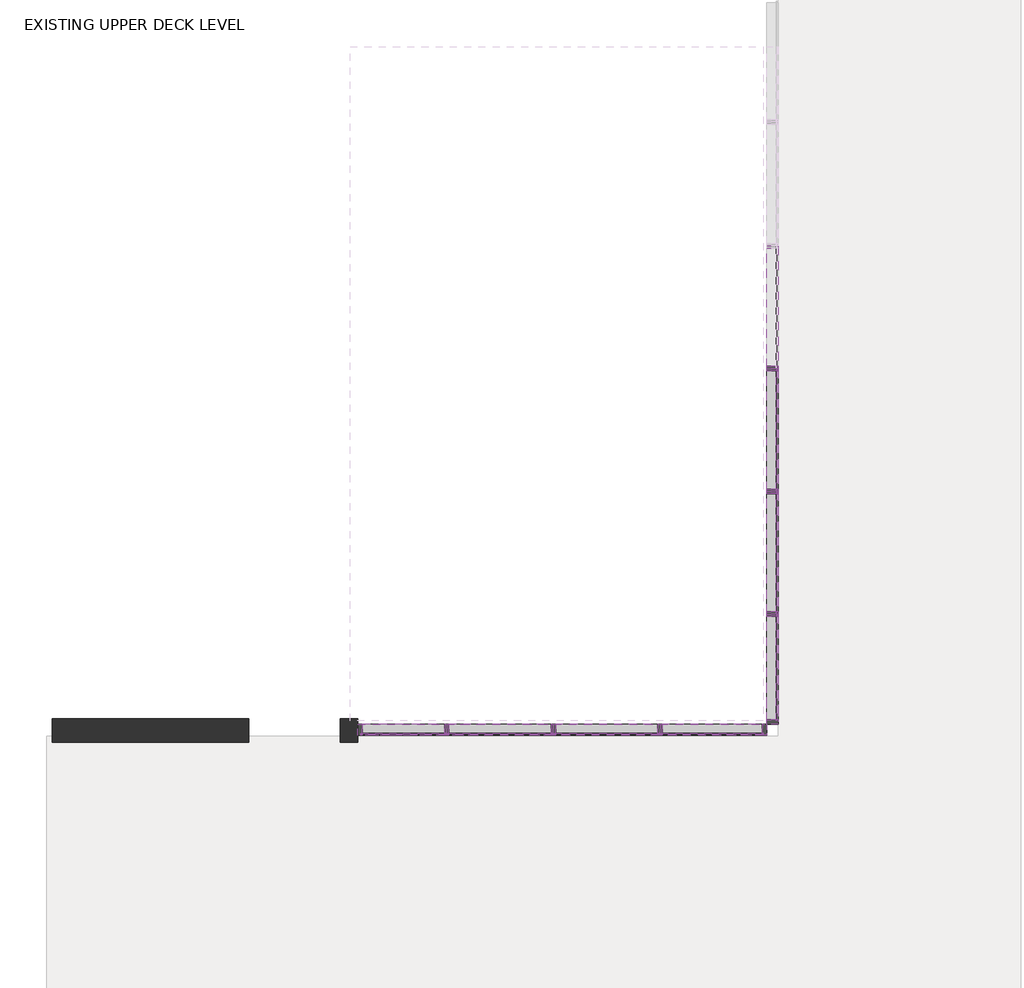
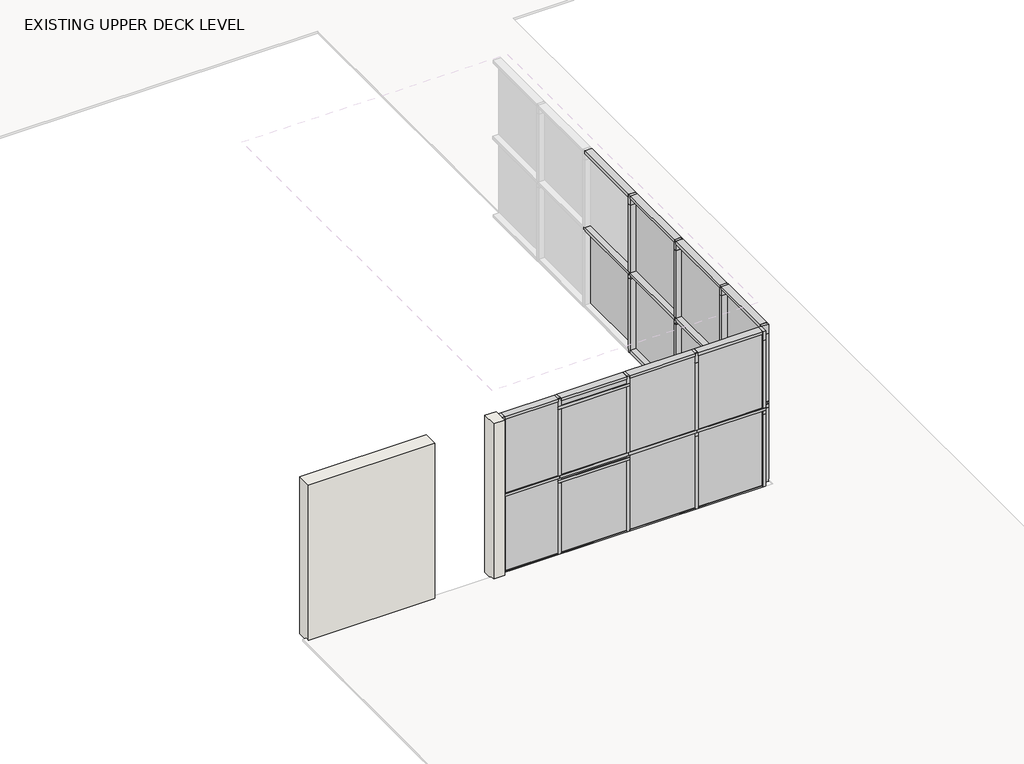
# One storey, part 1 of 3: 61 members, 17 plates, 2 walls.
"""IFC4 building model written with IfcOpenShell, lengths in millimetres."""

from ifc_helpers import new_model, si_unit, frame, origin, place, context, project, spatial, polyline, outline, extrude, transform, mapped, element, save
from components import rectangular_mullion_87c65740, rectangular_mullion_3bbbedf9, rectangular_mullion_b4cfd369, rectangular_mullion_5c729091, rectangular_mullion_7315190d, rectangular_mullion_10d2db1b, rectangular_mullion_3d4ac5a3, rectangular_mullion_f62ba54a, rectangular_mullion_d111657e, rectangular_mullion_fd3b6dd5, rectangular_mullion_40eadc30, rectangular_mullion_0e282d8c, rectangular_mullion_39e7f09f, rectangular_mullion_3aae72b7, rectangular_mullion_4c7a72c7, rectangular_mullion_b3d4cb6b, rectangular_mullion_1fe92667, rectangular_mullion_973b460d, rectangular_mullion_55bcc982, rectangular_mullion_b831e8bf, rectangular_mullion_e9066878, rectangular_mullion_478801f2, rectangular_mullion_1c6565c6, rectangular_mullion_a1e8f6e1, rectangular_mullion_329eebb0, rectangular_mullion_10ea58ea, rectangular_mullion_4aa090f8, rectangular_mullion_731fc383, rectangular_mullion_7dc9a697, rectangular_mullion_669ae467, rectangular_mullion_b15996d5, plate_297d9759, plate_a72b84bc, plate_3ea17b85, plate_fda873d3, plate_d8a04414, plate_09c1979e, plate_30067b60, plate_68830c21, plate_dc7cb12e, plate_a2bcb05a, plate_3054a16b, plate_fc387e76, plate_87ee5b28, plate_58e7cea2

model = new_model("IFC4")

# Units and contexts
model_context = context("Model", 3, world=origin())
ifc_project = project(units=[si_unit("LENGTHUNIT", "METRE", prefix="MILLI")], contexts=[model_context])

# Site, building, storey
site = spatial("IfcSite", under=ifc_project)
building = spatial("IfcBuilding", under=site)
storey = spatial("IfcBuildingStorey", under=building, Name="EXISTING UPPER DECK LEVEL", Elevation=294830.5)

# Members
placement = place(None, origin())
rectangular_mullion_shape = rectangular_mullion_87c65740(model_context)
element("IfcMember", 1, ObjectType="Rectangular Mullion : Kawneer-TRIFAB_VG_450_BACK_SB_Jamb R", at=placement, inside=storey, context=model_context, shape_type="MappedRepresentation", body=[
    mapped(rectangular_mullion_shape, transform((26931.5406077, 207160.7921827, 294830.5), x_axis=(0.0, -1.0, 0.0), y_axis=(-1.0, 0.0, 0.0), z_axis=(0.0, 0.0, -1.0))),
])
element("IfcMember", 2, ObjectType="Rectangular Mullion : Kawneer-TRIFAB_VG_450_BACK_SB_Jamb R", at=placement, inside=storey, context=model_context, shape_type="MappedRepresentation", body=[
    mapped(rectangular_mullion_shape, transform((22729.3654546, 207063.9546827, 294830.5), x_axis=(-1.0, 0.0, 0.0), y_axis=(0.0, 1.0, 0.0), z_axis=(0.0, 0.0, -1.0))),
])
rectangular_mullion_2_shape = rectangular_mullion_3bbbedf9(model_context)
element("IfcMember", 3, ObjectType="Rectangular Mullion : Kawneer-TRIFAB_VG_450_BACK_SB_Vertical", at=placement, inside=storey, context=model_context, shape_type="MappedRepresentation", body=[
    mapped(rectangular_mullion_2_shape, transform((26931.5406077, 209497.4591288, 294830.5), x_axis=(0.0, -1.0, 0.0), y_axis=(-1.0, 0.0, 0.0), z_axis=(0.0, 0.0, -1.0))),
])
element("IfcMember", 4, ObjectType="Rectangular Mullion : Kawneer-TRIFAB_VG_450_BACK_SB_Vertical", at=placement, inside=storey, context=model_context, shape_type="MappedRepresentation", body=[
    mapped(rectangular_mullion_2_shape, transform((26931.5406077, 208265.5591288, 294830.5), x_axis=(0.0, -1.0, 0.0), y_axis=(-1.0, 0.0, 0.0), z_axis=(0.0, 0.0, -1.0))),
])
element("IfcMember", 5, ObjectType="Rectangular Mullion : Kawneer-TRIFAB_VG_450_BACK_SB_Vertical", at=placement, inside=storey, context=model_context, shape_type="MappedRepresentation", body=[
    mapped(rectangular_mullion_2_shape, transform((26931.5406077, 210729.3591288, 294830.5), x_axis=(0.0, -1.0, 0.0), y_axis=(-1.0, 0.0, 0.0), z_axis=(0.0, 0.0, -1.0))),
])
element("IfcMember", 6, ObjectType="Rectangular Mullion : Kawneer-TRIFAB_VG_450_BACK_SB_Vertical", at=placement, inside=storey, context=model_context, shape_type="MappedRepresentation", body=[
    mapped(rectangular_mullion_2_shape, transform((25763.9186944, 207063.9546827, 294830.5), x_axis=(-1.0, 0.0, 0.0), y_axis=(0.0, 1.0, 0.0), z_axis=(0.0, 0.0, -1.0))),
])
rectangular_mullion_3_shape = rectangular_mullion_b4cfd369(model_context)
element("IfcMember", 7, ObjectType="Rectangular Mullion : Kawneer-TRIFAB_VG_450_BACK_SB_Jamb L", at=placement, inside=storey, context=model_context, shape_type="MappedRepresentation", body=[
    mapped(rectangular_mullion_3_shape, transform((26834.7031077, 207063.9546827, 296049.7), x_axis=(1.0, 0.0, 0.0), y_axis=(0.0, 1.0, 0.0), z_axis=(0.0, 0.0, 1.0))),
])
rectangular_mullion_4_shape = rectangular_mullion_5c729091(model_context)
element("IfcMember", 8, ObjectType="Rectangular Mullion : Kawneer-TRIFAB_VG_450_BACK_SB_Head", at=placement, inside=storey, context=model_context, shape_type="MappedRepresentation", body=[
    mapped(rectangular_mullion_4_shape, transform((26931.5406077, 209519.6841288, 297421.3), x_axis=(0.0, 0.0, 1.0), y_axis=(-1.0, 0.0, 0.0), z_axis=(0.0, -1.0, 0.0))),
])
element("IfcMember", 9, ObjectType="Rectangular Mullion : Kawneer-TRIFAB_VG_450_BACK_SB_Head", at=placement, inside=storey, context=model_context, shape_type="MappedRepresentation", body=[
    mapped(rectangular_mullion_4_shape, transform((26931.5406077, 208287.7841288, 297421.3), x_axis=(0.0, 0.0, 1.0), y_axis=(-1.0, 0.0, 0.0), z_axis=(0.0, -1.0, 0.0))),
])
element("IfcMember", 10, ObjectType="Rectangular Mullion : Kawneer-TRIFAB_VG_450_BACK_SB_Head", at=placement, inside=storey, context=model_context, shape_type="MappedRepresentation", body=[
    mapped(rectangular_mullion_4_shape, transform((26931.5406077, 210751.5841288, 297421.3), x_axis=(0.0, 0.0, 1.0), y_axis=(-1.0, 0.0, 0.0), z_axis=(0.0, -1.0, 0.0))),
])
rectangular_mullion_5_shape = rectangular_mullion_7315190d(model_context)
element("IfcMember", 11, ObjectType="Rectangular Mullion : Kawneer-TRIFAB_VG_450_BACK_SB_Sill", at=placement, inside=storey, context=model_context, shape_type="MappedRepresentation", body=[
    mapped(rectangular_mullion_5_shape, transform((26931.5406077, 209475.2341288, 294830.5), x_axis=(0.0, 0.0, -1.0), y_axis=(-1.0, 0.0, 0.0), z_axis=(0.0, 1.0, 0.0))),
])
element("IfcMember", 12, ObjectType="Rectangular Mullion : Kawneer-TRIFAB_VG_450_BACK_SB_Sill", at=placement, inside=storey, context=model_context, shape_type="MappedRepresentation", body=[
    mapped(rectangular_mullion_5_shape, transform((26931.5406077, 210707.1341288, 294830.5), x_axis=(0.0, 0.0, -1.0), y_axis=(-1.0, 0.0, 0.0), z_axis=(0.0, 1.0, 0.0))),
])
rectangular_mullion_6_shape = rectangular_mullion_10d2db1b(model_context)
element("IfcMember", 13, ObjectType="Rectangular Mullion : Kawneer-TRIFAB_VG_450_BACK_SB_Vertical", at=placement, inside=storey, context=model_context, shape_type="MappedRepresentation", body=[
    mapped(rectangular_mullion_6_shape, transform((26931.5406077, 209497.4591288, 297268.9), x_axis=(0.0, -1.0, 0.0), y_axis=(-1.0, 0.0, 0.0), z_axis=(0.0, 0.0, -1.0))),
])
element("IfcMember", 14, ObjectType="Rectangular Mullion : Kawneer-TRIFAB_VG_450_BACK_SB_Vertical", at=placement, inside=storey, context=model_context, shape_type="MappedRepresentation", body=[
    mapped(rectangular_mullion_6_shape, transform((26931.5406077, 208265.5591288, 297268.9), x_axis=(0.0, -1.0, 0.0), y_axis=(-1.0, 0.0, 0.0), z_axis=(0.0, 0.0, -1.0))),
])
element("IfcMember", 15, ObjectType="Rectangular Mullion : Kawneer-TRIFAB_VG_450_BACK_SB_Vertical", at=placement, inside=storey, context=model_context, shape_type="MappedRepresentation", body=[
    mapped(rectangular_mullion_6_shape, transform((26931.5406077, 210729.3591288, 297268.9), x_axis=(0.0, -1.0, 0.0), y_axis=(-1.0, 0.0, 0.0), z_axis=(0.0, 0.0, -1.0))),
])
element("IfcMember", 16, ObjectType="Rectangular Mullion : Kawneer-TRIFAB_VG_450_BACK_SB_Vertical", at=placement, inside=storey, context=model_context, shape_type="MappedRepresentation", body=[
    mapped(rectangular_mullion_6_shape, transform((25763.9186944, 207063.9546827, 297268.9), x_axis=(-1.0, 0.0, 0.0), y_axis=(0.0, 1.0, 0.0), z_axis=(0.0, 0.0, -1.0))),
])
rectangular_mullion_7_shape = rectangular_mullion_3d4ac5a3(model_context)
element("IfcMember", 17, ObjectType="Rectangular Mullion : Kawneer-TRIFAB_VG_450_BACK_SB_Jamb L", at=placement, inside=storey, context=model_context, shape_type="MappedRepresentation", body=[
    mapped(rectangular_mullion_7_shape, transform((26834.7031077, 207063.9546827, 297421.3), x_axis=(1.0, 0.0, 0.0), y_axis=(0.0, 1.0, 0.0), z_axis=(0.0, 0.0, 1.0))),
])
rectangular_mullion_8_shape = rectangular_mullion_f62ba54a(model_context)
element("IfcMember", 18, ObjectType="Rectangular Mullion : Kawneer-TRIFAB_VG_450_BACK_SB_Jamb R", at=placement, inside=storey, context=model_context, shape_type="MappedRepresentation", body=[
    mapped(rectangular_mullion_8_shape, transform((26931.5406077, 207160.7921827, 297268.9), x_axis=(0.0, -1.0, 0.0), y_axis=(-1.0, 0.0, 0.0), z_axis=(0.0, 0.0, -1.0))),
])
element("IfcMember", 19, ObjectType="Rectangular Mullion : Kawneer-TRIFAB_VG_450_BACK_SB_Jamb R", at=placement, inside=storey, context=model_context, shape_type="MappedRepresentation", body=[
    mapped(rectangular_mullion_8_shape, transform((22729.3654546, 207063.9546827, 297268.9), x_axis=(-1.0, 0.0, 0.0), y_axis=(0.0, 1.0, 0.0), z_axis=(0.0, 0.0, -1.0))),
])
rectangular_mullion_9_shape = rectangular_mullion_d111657e(model_context)
element("IfcMember", 20, ObjectType="Rectangular Mullion : Kawneer-TRIFAB_VG_450_BACK_SB_Vertical", at=placement, inside=storey, context=model_context, shape_type="MappedRepresentation", body=[
    mapped(rectangular_mullion_9_shape, transform((24693.1342812, 207063.9546827, 294830.5), x_axis=(-1.0, 0.0, 0.0), y_axis=(0.0, 1.0, 0.0), z_axis=(0.0, 0.0, -1.0))),
])
element("IfcMember", 21, ObjectType="Rectangular Mullion : Kawneer-TRIFAB_VG_450_BACK_SB_Vertical", at=placement, inside=storey, context=model_context, shape_type="MappedRepresentation", body=[
    mapped(rectangular_mullion_9_shape, transform((23622.3498679, 207063.9546827, 294830.5), x_axis=(-1.0, 0.0, 0.0), y_axis=(0.0, 1.0, 0.0), z_axis=(0.0, 0.0, -1.0))),
])
rectangular_mullion_10_shape = rectangular_mullion_fd3b6dd5(model_context)
element("IfcMember", 22, ObjectType="Rectangular Mullion : Kawneer-TRIFAB_VG_450_BACK_SB_Vertical", at=placement, inside=storey, context=model_context, shape_type="MappedRepresentation", body=[
    mapped(rectangular_mullion_10_shape, transform((26931.5406077, 209497.4591288, 296049.7), x_axis=(0.0, -1.0, 0.0), y_axis=(-1.0, 0.0, 0.0), z_axis=(0.0, 0.0, -1.0))),
])
element("IfcMember", 23, ObjectType="Rectangular Mullion : Kawneer-TRIFAB_VG_450_BACK_SB_Vertical", at=placement, inside=storey, context=model_context, shape_type="MappedRepresentation", body=[
    mapped(rectangular_mullion_10_shape, transform((26931.5406077, 208265.5591288, 296049.7), x_axis=(0.0, -1.0, 0.0), y_axis=(-1.0, 0.0, 0.0), z_axis=(0.0, 0.0, -1.0))),
])
element("IfcMember", 24, ObjectType="Rectangular Mullion : Kawneer-TRIFAB_VG_450_BACK_SB_Vertical", at=placement, inside=storey, context=model_context, shape_type="MappedRepresentation", body=[
    mapped(rectangular_mullion_10_shape, transform((26931.5406077, 210729.3591288, 296049.7), x_axis=(0.0, -1.0, 0.0), y_axis=(-1.0, 0.0, 0.0), z_axis=(0.0, 0.0, -1.0))),
])
element("IfcMember", 25, ObjectType="Rectangular Mullion : Kawneer-TRIFAB_VG_450_BACK_SB_Vertical", at=placement, inside=storey, context=model_context, shape_type="MappedRepresentation", body=[
    mapped(rectangular_mullion_10_shape, transform((25763.9186944, 207063.9546827, 296049.7), x_axis=(-1.0, 0.0, 0.0), y_axis=(0.0, 1.0, 0.0), z_axis=(0.0, 0.0, -1.0))),
])
rectangular_mullion_11_shape = rectangular_mullion_40eadc30(model_context)
element("IfcMember", 26, ObjectType="Rectangular Mullion : Kawneer-TRIFAB_VG_450_BACK_SB_Vertical", at=placement, inside=storey, context=model_context, shape_type="MappedRepresentation", body=[
    mapped(rectangular_mullion_11_shape, transform((26931.5406077, 209497.4591288, 296152.4594027), x_axis=(0.0, -1.0, 0.0), y_axis=(-1.0, 0.0, 0.0), z_axis=(0.0, 0.0, -1.0))),
])
element("IfcMember", 27, ObjectType="Rectangular Mullion : Kawneer-TRIFAB_VG_450_BACK_SB_Vertical", at=placement, inside=storey, context=model_context, shape_type="MappedRepresentation", body=[
    mapped(rectangular_mullion_11_shape, transform((26931.5406077, 208265.5591288, 296152.4594027), x_axis=(0.0, -1.0, 0.0), y_axis=(-1.0, 0.0, 0.0), z_axis=(0.0, 0.0, -1.0))),
])
element("IfcMember", 28, ObjectType="Rectangular Mullion : Kawneer-TRIFAB_VG_450_BACK_SB_Vertical", at=placement, inside=storey, context=model_context, shape_type="MappedRepresentation", body=[
    mapped(rectangular_mullion_11_shape, transform((26931.5406077, 210729.3591288, 296152.4594027), x_axis=(0.0, -1.0, 0.0), y_axis=(-1.0, 0.0, 0.0), z_axis=(0.0, 0.0, -1.0))),
])
element("IfcMember", 29, ObjectType="Rectangular Mullion : Kawneer-TRIFAB_VG_450_BACK_SB_Vertical", at=placement, inside=storey, context=model_context, shape_type="MappedRepresentation", body=[
    mapped(rectangular_mullion_11_shape, transform((25763.9186944, 207063.9546827, 296152.4594027), x_axis=(-1.0, 0.0, 0.0), y_axis=(0.0, 1.0, 0.0), z_axis=(0.0, 0.0, -1.0))),
])
rectangular_mullion_12_shape = rectangular_mullion_0e282d8c(model_context)
element("IfcMember", 30, ObjectType="Rectangular Mullion : Kawneer-TRIFAB_VG_450_BACK_SB_Horizontal", at=placement, inside=storey, context=model_context, shape_type="MappedRepresentation", body=[
    mapped(rectangular_mullion_12_shape, transform((26931.5406077, 210729.3591288, 296125.9), x_axis=(0.0, 0.0, 1.0), y_axis=(-1.0, 0.0, 0.0), z_axis=(0.0, -1.0, 0.0))),
])
element("IfcMember", 31, ObjectType="Rectangular Mullion : Kawneer-TRIFAB_VG_450_BACK_SB_Horizontal", at=placement, inside=storey, context=model_context, shape_type="MappedRepresentation", body=[
    mapped(rectangular_mullion_12_shape, transform((26931.5406077, 209497.4591288, 296125.9), x_axis=(0.0, 0.0, 1.0), y_axis=(-1.0, 0.0, 0.0), z_axis=(0.0, -1.0, 0.0))),
])
element("IfcMember", 32, ObjectType="Rectangular Mullion : Kawneer-TRIFAB_VG_450_BACK_SB_Horizontal", at=placement, inside=storey, context=model_context, shape_type="MappedRepresentation", body=[
    mapped(rectangular_mullion_12_shape, transform((26931.5406077, 208265.5591288, 296125.9), x_axis=(0.0, 0.0, 1.0), y_axis=(-1.0, 0.0, 0.0), z_axis=(0.0, -1.0, 0.0))),
])
rectangular_mullion_13_shape = rectangular_mullion_39e7f09f(model_context)
element("IfcMember", 33, ObjectType="Rectangular Mullion : Kawneer-TRIFAB_VG_450_BACK_SB_Jamb R", at=placement, inside=storey, context=model_context, shape_type="MappedRepresentation", body=[
    mapped(rectangular_mullion_13_shape, transform((26931.5406077, 207160.7921827, 296049.7), x_axis=(0.0, -1.0, 0.0), y_axis=(-1.0, 0.0, 0.0), z_axis=(0.0, 0.0, -1.0))),
])
element("IfcMember", 34, ObjectType="Rectangular Mullion : Kawneer-TRIFAB_VG_450_BACK_SB_Jamb R", at=placement, inside=storey, context=model_context, shape_type="MappedRepresentation", body=[
    mapped(rectangular_mullion_13_shape, transform((22729.3654546, 207063.9546827, 296049.7), x_axis=(-1.0, 0.0, 0.0), y_axis=(0.0, 1.0, 0.0), z_axis=(0.0, 0.0, -1.0))),
])
rectangular_mullion_14_shape = rectangular_mullion_3aae72b7(model_context)
element("IfcMember", 35, ObjectType="Rectangular Mullion : Kawneer-TRIFAB_VG_450_BACK_SB_Jamb L", at=placement, inside=storey, context=model_context, shape_type="MappedRepresentation", body=[
    mapped(rectangular_mullion_14_shape, transform((26834.7031077, 207063.9546827, 297268.9), x_axis=(1.0, 0.0, 0.0), y_axis=(0.0, 1.0, 0.0), z_axis=(0.0, 0.0, 1.0))),
])
rectangular_mullion_15_shape = rectangular_mullion_4c7a72c7(model_context)
element("IfcMember", 36, ObjectType="Rectangular Mullion : Kawneer-TRIFAB_VG_450_BACK_SB_Jamb R", at=placement, inside=storey, context=model_context, shape_type="MappedRepresentation", body=[
    mapped(rectangular_mullion_15_shape, transform((26931.5406077, 207160.7921827, 296152.4594027), x_axis=(0.0, -1.0, 0.0), y_axis=(-1.0, 0.0, 0.0), z_axis=(0.0, 0.0, -1.0))),
])
element("IfcMember", 37, ObjectType="Rectangular Mullion : Kawneer-TRIFAB_VG_450_BACK_SB_Jamb R", at=placement, inside=storey, context=model_context, shape_type="MappedRepresentation", body=[
    mapped(rectangular_mullion_15_shape, transform((22729.3654546, 207063.9546827, 296152.4594027), x_axis=(-1.0, 0.0, 0.0), y_axis=(0.0, 1.0, 0.0), z_axis=(0.0, 0.0, -1.0))),
])
rectangular_mullion_16_shape = rectangular_mullion_b3d4cb6b(model_context)
element("IfcMember", 38, ObjectType="Rectangular Mullion : Kawneer-TRIFAB_VG_450_BACK_SB_Jamb L", at=placement, inside=storey, context=model_context, shape_type="MappedRepresentation", body=[
    mapped(rectangular_mullion_16_shape, transform((26834.7031077, 207063.9546827, 296108.0094027), x_axis=(1.0, 0.0, 0.0), y_axis=(0.0, 1.0, 0.0), z_axis=(0.0, 0.0, 1.0))),
])
rectangular_mullion_17_shape = rectangular_mullion_1fe92667(model_context)
element("IfcMember", 39, ObjectType="Rectangular Mullion : Kawneer-TRIFAB_VG_450_BACK_SB_Head", at=placement, inside=storey, context=model_context, shape_type="MappedRepresentation", body=[
    mapped(rectangular_mullion_17_shape, transform((26931.5406077, 207205.2421827, 297421.3), x_axis=(0.0, 0.0, 1.0), y_axis=(-1.0, 0.0, 0.0), z_axis=(0.0, -1.0, 0.0))),
])
rectangular_mullion_18_shape = rectangular_mullion_973b460d(model_context)
element("IfcMember", 40, ObjectType="Rectangular Mullion : Kawneer-TRIFAB_VG_450_BACK_SB_Sill", at=placement, inside=storey, context=model_context, shape_type="MappedRepresentation", body=[
    mapped(rectangular_mullion_18_shape, transform((26931.5406077, 208243.3341288, 294830.5), x_axis=(0.0, 0.0, -1.0), y_axis=(-1.0, 0.0, 0.0), z_axis=(0.0, 1.0, 0.0))),
])
rectangular_mullion_19_shape = rectangular_mullion_55bcc982(model_context)
element("IfcMember", 41, ObjectType="Rectangular Mullion : Kawneer-TRIFAB_VG_450_BACK_SB_Horizontal", at=placement, inside=storey, context=model_context, shape_type="MappedRepresentation", body=[
    mapped(rectangular_mullion_19_shape, transform((26931.5406077, 207160.7921827, 296125.9), x_axis=(0.0, 0.0, 1.0), y_axis=(-1.0, 0.0, 0.0), z_axis=(0.0, -1.0, 0.0))),
])
rectangular_mullion_20_shape = rectangular_mullion_b831e8bf(model_context)
element("IfcMember", 42, ObjectType="Rectangular Mullion : Kawneer-TRIFAB_VG_450_BACK_SB_Head", at=placement, inside=storey, context=model_context, shape_type="MappedRepresentation", body=[
    mapped(rectangular_mullion_20_shape, transform((22773.8154546, 207063.9546827, 297421.3), x_axis=(0.0, 0.0, 1.0), y_axis=(0.0, 1.0, 0.0), z_axis=(-1.0, 0.0, 0.0))),
])
rectangular_mullion_21_shape = rectangular_mullion_e9066878(model_context)
element("IfcMember", 43, ObjectType="Rectangular Mullion : Kawneer-TRIFAB_VG_450_BACK_SB_Sill", at=placement, inside=storey, context=model_context, shape_type="MappedRepresentation", body=[
    mapped(rectangular_mullion_21_shape, transform((23600.1248679, 207063.9546827, 294830.5), x_axis=(0.0, 0.0, -1.0), y_axis=(0.0, 1.0, 0.0), z_axis=(1.0, 0.0, 0.0))),
])
rectangular_mullion_22_shape = rectangular_mullion_478801f2(model_context)
element("IfcMember", 44, ObjectType="Rectangular Mullion : Kawneer-TRIFAB_VG_450_BACK_SB_Horizontal", at=placement, inside=storey, context=model_context, shape_type="MappedRepresentation", body=[
    mapped(rectangular_mullion_22_shape, transform((22729.3654546, 207063.9546827, 296125.9), x_axis=(0.0, 0.0, 1.0), y_axis=(0.0, 1.0, 0.0), z_axis=(-1.0, 0.0, 0.0))),
])
rectangular_mullion_23_shape = rectangular_mullion_1c6565c6(model_context)
element("IfcMember", 45, ObjectType="Rectangular Mullion : Kawneer-TRIFAB_VG_450_BACK_SB_Vertical", at=placement, inside=storey, context=model_context, shape_type="MappedRepresentation", body=[
    mapped(rectangular_mullion_23_shape, transform((24693.1342812, 207063.9546827, 296076.2594027), x_axis=(-1.0, 0.0, 0.0), y_axis=(0.0, 1.0, 0.0), z_axis=(0.0, 0.0, -1.0))),
])
element("IfcMember", 46, ObjectType="Rectangular Mullion : Kawneer-TRIFAB_VG_450_BACK_SB_Vertical", at=placement, inside=storey, context=model_context, shape_type="MappedRepresentation", body=[
    mapped(rectangular_mullion_23_shape, transform((23622.3498679, 207063.9546827, 296076.2594027), x_axis=(-1.0, 0.0, 0.0), y_axis=(0.0, 1.0, 0.0), z_axis=(0.0, 0.0, -1.0))),
])
rectangular_mullion_24_shape = rectangular_mullion_a1e8f6e1(model_context)
element("IfcMember", 47, ObjectType="Rectangular Mullion : Kawneer-TRIFAB_VG_450_BACK_SB_Vertical", at=placement, inside=storey, context=model_context, shape_type="MappedRepresentation", body=[
    mapped(rectangular_mullion_24_shape, transform((24693.1342812, 207063.9546827, 297295.4594027), x_axis=(-1.0, 0.0, 0.0), y_axis=(0.0, 1.0, 0.0), z_axis=(0.0, 0.0, -1.0))),
])
element("IfcMember", 48, ObjectType="Rectangular Mullion : Kawneer-TRIFAB_VG_450_BACK_SB_Vertical", at=placement, inside=storey, context=model_context, shape_type="MappedRepresentation", body=[
    mapped(rectangular_mullion_24_shape, transform((23622.3498679, 207063.9546827, 297295.4594027), x_axis=(-1.0, 0.0, 0.0), y_axis=(0.0, 1.0, 0.0), z_axis=(0.0, 0.0, -1.0))),
])
rectangular_mullion_25_shape = rectangular_mullion_329eebb0(model_context)
element("IfcMember", 49, ObjectType="Rectangular Mullion : Kawneer-TRIFAB_VG_450_BACK_SB_Vertical", at=placement, inside=storey, context=model_context, shape_type="MappedRepresentation", body=[
    mapped(rectangular_mullion_25_shape, transform((24693.1342812, 207063.9546827, 296152.4594027), x_axis=(-1.0, 0.0, 0.0), y_axis=(0.0, 1.0, 0.0), z_axis=(0.0, 0.0, -1.0))),
])
element("IfcMember", 50, ObjectType="Rectangular Mullion : Kawneer-TRIFAB_VG_450_BACK_SB_Vertical", at=placement, inside=storey, context=model_context, shape_type="MappedRepresentation", body=[
    mapped(rectangular_mullion_25_shape, transform((23622.3498679, 207063.9546827, 296152.4594027), x_axis=(-1.0, 0.0, 0.0), y_axis=(0.0, 1.0, 0.0), z_axis=(0.0, 0.0, -1.0))),
])
rectangular_mullion_26_shape = rectangular_mullion_10ea58ea(model_context)
element("IfcMember", 51, ObjectType="Rectangular Mullion : Kawneer-TRIFAB_VG_450_BACK_SB_Sill", at=placement, inside=storey, context=model_context, shape_type="MappedRepresentation", body=[
    mapped(rectangular_mullion_26_shape, transform((24670.9092812, 207063.9546827, 294830.5), x_axis=(0.0, 0.0, -1.0), y_axis=(0.0, 1.0, 0.0), z_axis=(1.0, 0.0, 0.0))),
])
element("IfcMember", 52, ObjectType="Rectangular Mullion : Kawneer-TRIFAB_VG_450_BACK_SB_Sill", at=placement, inside=storey, context=model_context, shape_type="MappedRepresentation", body=[
    mapped(rectangular_mullion_26_shape, transform((25741.6936944, 207063.9546827, 294830.5), x_axis=(0.0, 0.0, -1.0), y_axis=(0.0, 1.0, 0.0), z_axis=(1.0, 0.0, 0.0))),
])
rectangular_mullion_27_shape = rectangular_mullion_4aa090f8(model_context)
element("IfcMember", 53, ObjectType="Rectangular Mullion : Kawneer-TRIFAB_VG_450_BACK_SB_Head", at=placement, inside=storey, context=model_context, shape_type="MappedRepresentation", body=[
    mapped(rectangular_mullion_27_shape, transform((24715.3592812, 207063.9546827, 297421.3), x_axis=(0.0, 0.0, 1.0), y_axis=(0.0, 1.0, 0.0), z_axis=(-1.0, 0.0, 0.0))),
])
element("IfcMember", 54, ObjectType="Rectangular Mullion : Kawneer-TRIFAB_VG_450_BACK_SB_Head", at=placement, inside=storey, context=model_context, shape_type="MappedRepresentation", body=[
    mapped(rectangular_mullion_27_shape, transform((23644.5748679, 207063.9546827, 297421.3), x_axis=(0.0, 0.0, 1.0), y_axis=(0.0, 1.0, 0.0), z_axis=(-1.0, 0.0, 0.0))),
])
rectangular_mullion_28_shape = rectangular_mullion_731fc383(model_context)
element("IfcMember", 55, ObjectType="Rectangular Mullion : Kawneer-TRIFAB_VG_450_BACK_SB_Horizontal", at=placement, inside=storey, context=model_context, shape_type="MappedRepresentation", body=[
    mapped(rectangular_mullion_28_shape, transform((24693.1342812, 207063.9546827, 296125.9), x_axis=(0.0, 0.0, 1.0), y_axis=(0.0, 1.0, 0.0), z_axis=(-1.0, 0.0, 0.0))),
])
element("IfcMember", 56, ObjectType="Rectangular Mullion : Kawneer-TRIFAB_VG_450_BACK_SB_Horizontal", at=placement, inside=storey, context=model_context, shape_type="MappedRepresentation", body=[
    mapped(rectangular_mullion_28_shape, transform((23622.3498679, 207063.9546827, 296125.9), x_axis=(0.0, 0.0, 1.0), y_axis=(0.0, 1.0, 0.0), z_axis=(-1.0, 0.0, 0.0))),
])
rectangular_mullion_29_shape = rectangular_mullion_7dc9a697(model_context)
element("IfcMember", 57, ObjectType="Rectangular Mullion : Kawneer-TRIFAB_VG_450_BACK_SB_Horizontal", at=placement, inside=storey, context=model_context, shape_type="MappedRepresentation", body=[
    mapped(rectangular_mullion_29_shape, transform((23600.1248679, 207063.9546827, 296049.7), x_axis=(0.0, 0.0, 1.0), y_axis=(0.0, 1.0, 0.0), z_axis=(-1.0, 0.0, 0.0))),
])
element("IfcMember", 58, ObjectType="Rectangular Mullion : Kawneer-TRIFAB_VG_450_BACK_SB_Horizontal", at=placement, inside=storey, context=model_context, shape_type="MappedRepresentation", body=[
    mapped(rectangular_mullion_29_shape, transform((23600.1248679, 207063.9546827, 297268.9), x_axis=(0.0, 0.0, 1.0), y_axis=(0.0, 1.0, 0.0), z_axis=(-1.0, 0.0, 0.0))),
])
rectangular_mullion_30_shape = rectangular_mullion_669ae467(model_context)
element("IfcMember", 59, ObjectType="Rectangular Mullion : Kawneer-TRIFAB_VG_450_BACK_SB_Sill", at=placement, inside=storey, context=model_context, shape_type="MappedRepresentation", body=[
    mapped(rectangular_mullion_30_shape, transform((26790.2531077, 207063.9546827, 294830.5), x_axis=(0.0, 0.0, -1.0), y_axis=(0.0, 1.0, 0.0), z_axis=(1.0, 0.0, 0.0))),
])
rectangular_mullion_31_shape = rectangular_mullion_b15996d5(model_context)
element("IfcMember", 60, ObjectType="Rectangular Mullion : Kawneer-TRIFAB_VG_450_BACK_SB_Head", at=placement, inside=storey, context=model_context, shape_type="MappedRepresentation", body=[
    mapped(rectangular_mullion_31_shape, transform((25786.1436944, 207063.9546827, 297421.3), x_axis=(0.0, 0.0, 1.0), y_axis=(0.0, 1.0, 0.0), z_axis=(-1.0, 0.0, 0.0))),
])
element("IfcMember", 61, ObjectType="Rectangular Mullion : Kawneer-TRIFAB_VG_450_BACK_SB_Horizontal", at=placement, inside=storey, context=model_context, shape_type="MappedRepresentation", body=[
    mapped(rectangular_mullion_28_shape, transform((25763.9186944, 207063.9546827, 296125.9), x_axis=(0.0, 0.0, 1.0), y_axis=(0.0, 1.0, 0.0), z_axis=(-1.0, 0.0, 0.0))),
])

# Plates
plate_shape = plate_297d9759(model_context)
element("IfcPlate", 62, ObjectType="System Panel : 1/4\" Glass", at=placement, inside=storey, context=model_context, shape_type="MappedRepresentation", body=[
    mapped(plate_shape, transform((26931.5406077, 211345.310014, 294865.425), x_axis=(0.0, -1.0, 0.0), y_axis=(1.0, 0.0, 0.0), z_axis=(0.0, 0.0, 1.0))),
])
element("IfcPlate", 63, ObjectType="System Panel : 1/4\" Glass", at=placement, inside=storey, context=model_context, shape_type="MappedRepresentation", body=[
    mapped(plate_shape, transform((26931.5406077, 208881.510014, 294865.425), x_axis=(0.0, -1.0, 0.0), y_axis=(1.0, 0.0, 0.0), z_axis=(0.0, 0.0, 1.0))),
])
element("IfcPlate", 64, ObjectType="System Panel : 1/4\" Glass", at=placement, inside=storey, context=model_context, shape_type="MappedRepresentation", body=[
    mapped(plate_shape, transform((26931.5406077, 210113.410014, 294865.425), x_axis=(0.0, -1.0, 0.0), y_axis=(1.0, 0.0, 0.0), z_axis=(0.0, 0.0, 1.0))),
])
plate_2_shape = plate_a72b84bc(model_context)
element("IfcPlate", 65, ObjectType="System Panel : 1/4\" Glass", at=placement, inside=storey, context=model_context, shape_type="MappedRepresentation", body=[
    mapped(plate_2_shape, transform((26931.5406077, 210113.410014, 296152.4594027), x_axis=(0.0, -1.0, 0.0), y_axis=(1.0, 0.0, 0.0), z_axis=(0.0, 0.0, 1.0))),
])
element("IfcPlate", 66, ObjectType="System Panel : 1/4\" Glass", at=placement, inside=storey, context=model_context, shape_type="MappedRepresentation", body=[
    mapped(plate_2_shape, transform((26931.5406077, 208881.510014, 296152.4594027), x_axis=(0.0, -1.0, 0.0), y_axis=(1.0, 0.0, 0.0), z_axis=(0.0, 0.0, 1.0))),
])
plate_3_shape = plate_3ea17b85(model_context)
element("IfcPlate", 67, ObjectType="System Panel : 1/4\" Glass", at=placement, inside=storey, context=model_context, shape_type="MappedRepresentation", body=[
    mapped(plate_3_shape, transform((26931.5406077, 207724.2881557, 294865.425), x_axis=(0.0, -1.0, 0.0), y_axis=(1.0, 0.0, 0.0), z_axis=(0.0, 0.0, 1.0))),
])
plate_4_shape = plate_fda873d3(model_context)
element("IfcPlate", 68, ObjectType="System Panel : 1/4\" Glass", at=placement, inside=storey, context=model_context, shape_type="MappedRepresentation", body=[
    mapped(plate_4_shape, transform((26931.5406077, 207724.2881557, 296152.4594027), x_axis=(0.0, -1.0, 0.0), y_axis=(1.0, 0.0, 0.0), z_axis=(0.0, 0.0, 1.0))),
])
plate_5_shape = plate_d8a04414(model_context)
element("IfcPlate", 69, ObjectType="System Panel : 1/4\" Glass", at=placement, inside=storey, context=model_context, shape_type="MappedRepresentation", body=[
    mapped(plate_5_shape, transform((23186.9701613, 207063.9546827, 294865.425), x_axis=(-1.0, 0.0, 0.0), y_axis=(0.0, -1.0, 0.0), z_axis=(0.0, 0.0, 1.0))),
])
plate_6_shape = plate_09c1979e(model_context)
element("IfcPlate", 70, ObjectType="System Panel : 1/4\" Glass", at=placement, inside=storey, context=model_context, shape_type="MappedRepresentation", body=[
    mapped(plate_6_shape, transform((23186.9701613, 207063.9546827, 296152.4594027), x_axis=(-1.0, 0.0, 0.0), y_axis=(0.0, -1.0, 0.0), z_axis=(0.0, 0.0, 1.0))),
])
plate_7_shape = plate_30067b60(model_context)
element("IfcPlate", 71, ObjectType="System Panel : 1/4\" Glass", at=placement, inside=storey, context=model_context, shape_type="MappedRepresentation", body=[
    mapped(plate_7_shape, transform((24157.7429597, 207063.9546827, 294865.425), x_axis=(-1.0, 0.0, 0.0), y_axis=(0.0, -1.0, 0.0), z_axis=(0.0, 0.0, 1.0))),
])
plate_8_shape = plate_68830c21(model_context)
element("IfcPlate", 72, ObjectType="System Panel : 1/4\" Glass", at=placement, inside=storey, context=model_context, shape_type="MappedRepresentation", body=[
    mapped(plate_8_shape, transform((24157.7429597, 207063.9546827, 296076.2594027), x_axis=(-1.0, 0.0, 0.0), y_axis=(0.0, -1.0, 0.0), z_axis=(0.0, 0.0, 1.0))),
])
plate_9_shape = plate_dc7cb12e(model_context)
element("IfcPlate", 73, ObjectType="System Panel : 1/4\" Glass", at=placement, inside=storey, context=model_context, shape_type="MappedRepresentation", body=[
    mapped(plate_9_shape, transform((24157.7429597, 207063.9546827, 297295.4594027), x_axis=(-1.0, 0.0, 0.0), y_axis=(0.0, -1.0, 0.0), z_axis=(0.0, 0.0, 1.0))),
])
plate_10_shape = plate_a2bcb05a(model_context)
element("IfcPlate", 74, ObjectType="System Panel : 1/4\" Glass", at=placement, inside=storey, context=model_context, shape_type="MappedRepresentation", body=[
    mapped(plate_10_shape, transform((24157.7429597, 207063.9546827, 296152.4594027), x_axis=(-1.0, 0.0, 0.0), y_axis=(0.0, -1.0, 0.0), z_axis=(0.0, 0.0, 1.0))),
])
plate_11_shape = plate_3054a16b(model_context)
element("IfcPlate", 75, ObjectType="System Panel : 1/4\" Glass", at=placement, inside=storey, context=model_context, shape_type="MappedRepresentation", body=[
    mapped(plate_11_shape, transform((26281.8484011, 207063.9546827, 294865.425), x_axis=(-1.0, 0.0, 0.0), y_axis=(0.0, -1.0, 0.0), z_axis=(0.0, 0.0, 1.0))),
])
plate_12_shape = plate_fc387e76(model_context)
element("IfcPlate", 76, ObjectType="System Panel : 1/4\" Glass", at=placement, inside=storey, context=model_context, shape_type="MappedRepresentation", body=[
    mapped(plate_12_shape, transform((25228.527373, 207063.9546827, 294865.425), x_axis=(-1.0, 0.0, 0.0), y_axis=(0.0, -1.0, 0.0), z_axis=(0.0, 0.0, 1.0))),
])
plate_13_shape = plate_87ee5b28(model_context)
element("IfcPlate", 77, ObjectType="System Panel : 1/4\" Glass", at=placement, inside=storey, context=model_context, shape_type="MappedRepresentation", body=[
    mapped(plate_13_shape, transform((26281.8484011, 207063.9546827, 296152.4594027), x_axis=(-1.0, 0.0, 0.0), y_axis=(0.0, -1.0, 0.0), z_axis=(0.0, 0.0, 1.0))),
])
plate_14_shape = plate_58e7cea2(model_context)
element("IfcPlate", 78, ObjectType="System Panel : 1/4\" Glass", at=placement, inside=storey, context=model_context, shape_type="MappedRepresentation", body=[
    mapped(plate_14_shape, transform((25228.527373, 207063.9546827, 296152.4594027), x_axis=(-1.0, 0.0, 0.0), y_axis=(0.0, -1.0, 0.0), z_axis=(0.0, 0.0, 1.0))),
])

# Walls
element("IfcWall", 79, ObjectType="(MP-1) Metal Panel Cladding 2", at=placement, inside=storey, context=model_context, shape_type="SweptSolid", body=[
    extrude(outline(polyline([(21637.1654546, 206979.93681), (19662.3154546, 206979.93681), (19662.3154546, 207214.88681), (21637.1654546, 207214.88681), (21637.1654546, 206979.93681)])), frame((0.0, 0.0, 294830.5), z_axis=(0.0, 0.0, 1.0), x_axis=(1.0, 0.0, 0.0)), (0.0, 0.0, 1.0), 2590.8),
])
element("IfcWall", 80, ObjectType="(MP-1) Metal Panel Cladding 2", at=placement, inside=storey, context=model_context, shape_type="SweptSolid", body=[
    extrude(outline(polyline([(22551.5654546, 207214.88681), (22729.3654546, 207214.88681), (22729.3654546, 206979.93681), (22551.5654546, 206979.93681), (22551.5654546, 207214.88681)])), frame((0.0, 0.0, 294830.5), z_axis=(0.0, 0.0, 1.0), x_axis=(1.0, 0.0, 0.0)), (0.0, 0.0, 1.0), 2590.8),
])

save(model, "model.ifc")
